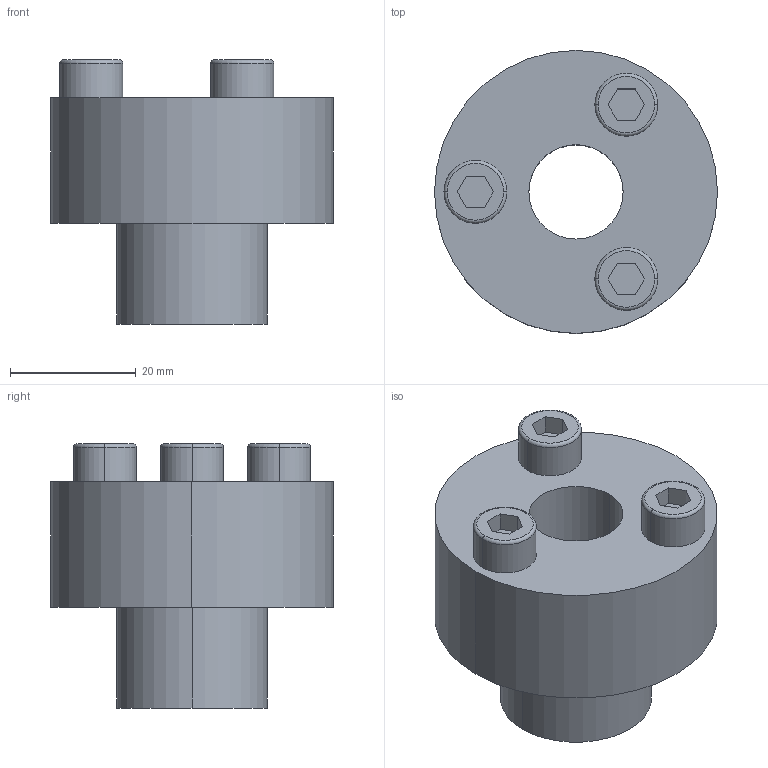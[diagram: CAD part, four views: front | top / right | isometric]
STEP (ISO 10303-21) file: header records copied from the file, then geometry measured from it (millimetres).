
FILE_DESCRIPTION (( 'STEP AP203' ), '1' );
FILE_NAME ('PL-C 15-24.STEP', '2021-10-22T08:28:36', ( '' ), ( '' ), 'SwSTEP 2.0', 'SolidWorks 2018', '' );
FILE_SCHEMA (( 'CONFIG_CONTROL_DESIGN' ));
Length unit declared in the file: millimetre
Products named in the file (1): PL-C 15-24
Bounding box: 45 x 45 x 42 mm (x, y, z)
Volume: 33899 mm3; surface area: 9258.5 mm2
Topology: 1 solids, 1 shells, 45 faces, 102 edges, 66 vertices
Faces by surface type: plane 27, cylinder 12, torus 6
Entity records: 1345 total; most frequent: DIRECTION 230, CARTESIAN_POINT 214, ORIENTED_EDGE 204, EDGE_CURVE 102, AXIS2_PLACEMENT_3D 82, VERTEX_POINT 66, LINE 66, VECTOR 66
